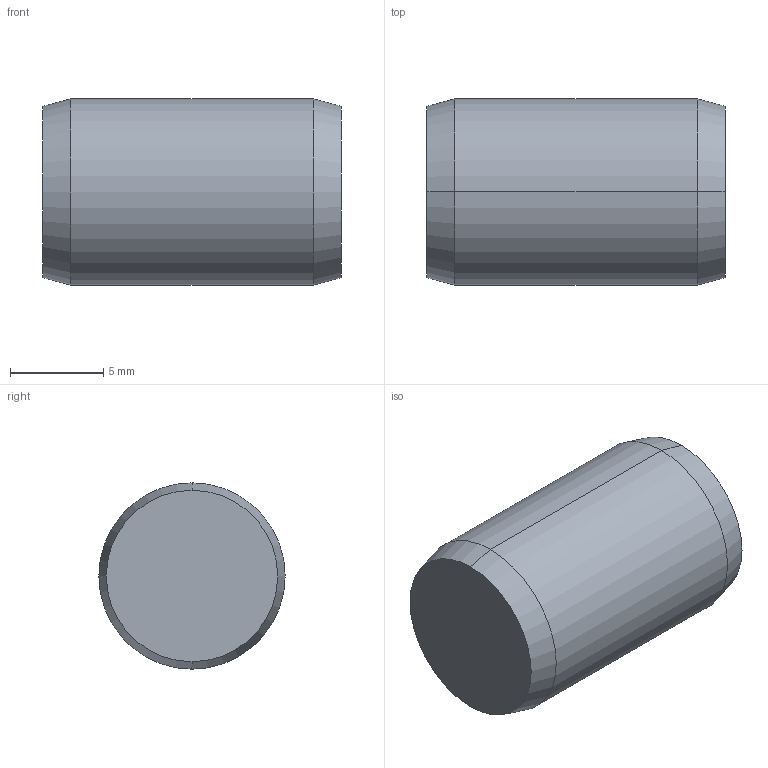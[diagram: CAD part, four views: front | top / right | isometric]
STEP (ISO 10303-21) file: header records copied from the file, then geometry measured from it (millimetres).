
FILE_DESCRIPTION (( 'STEP AP203' ), '1' );
FILE_NAME ('P1206.100-016.step', '2017-06-14T08:30:21', ( 'User' ), ( '' ), 'SwSTEP 2.0', 'SolidWorks 2009', '' );
FILE_SCHEMA (( 'CONFIG_CONTROL_DESIGN' ));
Length unit declared in the file: millimetre
Products named in the file (1): P1206.100-016
Bounding box: 16 x 10 x 10 mm (x, y, z)
Volume: 1238.2 mm3; surface area: 634.9 mm2
Topology: 1 solids, 1 shells, 8 faces, 14 edges, 8 vertices
Faces by surface type: cone 4, cylinder 2, plane 2
Entity records: 271 total; most frequent: DIRECTION 40, CARTESIAN_POINT 31, ORIENTED_EDGE 28, AXIS2_PLACEMENT_3D 17, EDGE_CURVE 14, EDGE_LOOP 8, ADVANCED_FACE 8, VERTEX_POINT 8
